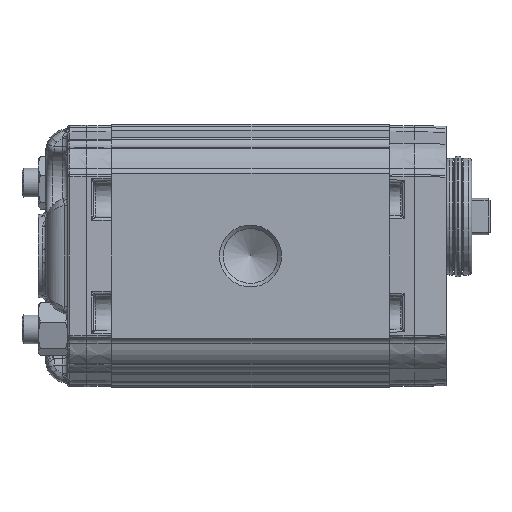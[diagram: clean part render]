
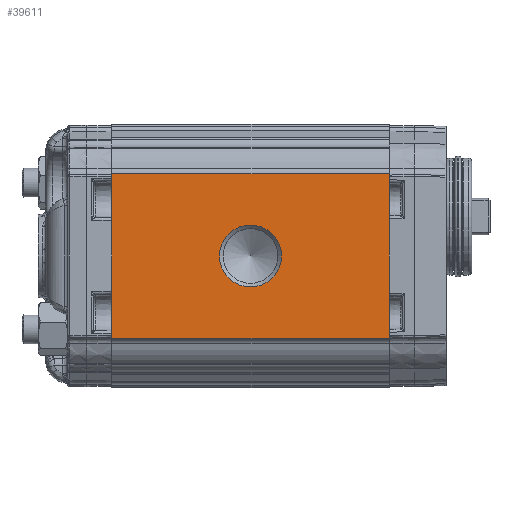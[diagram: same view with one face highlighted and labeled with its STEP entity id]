
A CAD part, left-side view. The second image highlights one B-rep face of the part: STEP entity #39611.
In plain terms, the highlighted planar face has unit normal (-1, 0, 0).
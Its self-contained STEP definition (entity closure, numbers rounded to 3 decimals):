
#3374=LINE('',#76230,#4494);
#3384=LINE('',#76331,#4504);
#3403=LINE('',#76379,#4523);
#3404=LINE('',#76381,#4524);
#4494=VECTOR('',#47897,1000.);
#4504=VECTOR('',#47989,1000.);
#4523=VECTOR('',#48044,1000.);
#4524=VECTOR('',#48047,1000.);
#9420=ORIENTED_EDGE('',*,*,#15362,.F.);
#9421=ORIENTED_EDGE('',*,*,#15460,.T.);
#9422=ORIENTED_EDGE('',*,*,#15432,.T.);
#9423=ORIENTED_EDGE('',*,*,#15461,.T.);
#9424=ORIENTED_EDGE('',*,*,#15382,.F.);
#15362=EDGE_CURVE('',#18653,#18653,#20753,.F.);
#15382=EDGE_CURVE('',#18674,#18675,#3374,.T.);
#15432=EDGE_CURVE('',#18725,#18724,#3384,.T.);
#15460=EDGE_CURVE('',#18674,#18725,#3403,.T.);
#15461=EDGE_CURVE('',#18724,#18675,#3404,.F.);
#18653=VERTEX_POINT('',#76186);
#18674=VERTEX_POINT('',#76229);
#18675=VERTEX_POINT('',#76231);
#18724=VERTEX_POINT('',#76330);
#18725=VERTEX_POINT('',#76332);
#20753=CIRCLE('',#42229,8.475);
#22659=EDGE_LOOP('',(#9420));
#22660=EDGE_LOOP('',(#9421,#9422,#9423,#9424));
#24688=FACE_BOUND('',#22659,.T.);
#24689=FACE_BOUND('',#22660,.T.);
#25817=PLANE('',#42325);
#39611=ADVANCED_FACE('',(#24688,#24689),#25817,.T.);
#42229=AXIS2_PLACEMENT_3D('',#76185,#47854,#47855);
#42325=AXIS2_PLACEMENT_3D('',#76408,#48090,#48091);
#47854=DIRECTION('',(1.,0.,0.));
#47855=DIRECTION('',(0.,0.,-1.));
#47897=DIRECTION('',(0.,0.,1.));
#47989=DIRECTION('',(0.,0.,1.));
#48044=DIRECTION('',(0.,-1.,0.));
#48047=DIRECTION('',(0.,-1.,0.));
#48090=DIRECTION('',(-1.,0.,0.));
#48091=DIRECTION('',(0.,0.,1.));
#76185=CARTESIAN_POINT('',(-33.,38.,0.));
#76186=CARTESIAN_POINT('',(-33.,38.,-8.475));
#76229=CARTESIAN_POINT('',(-33.,76.,-22.5));
#76230=CARTESIAN_POINT('',(-33.,76.,-21.711));
#76231=CARTESIAN_POINT('',(-33.,76.,22.5));
#76330=CARTESIAN_POINT('',(-33.,0.,22.5));
#76331=CARTESIAN_POINT('',(-33.,0.,-21.711));
#76332=CARTESIAN_POINT('',(-33.,0.,-22.5));
#76379=CARTESIAN_POINT('',(-33.,76.,-22.5));
#76381=CARTESIAN_POINT('',(-33.,76.,22.5));
#76408=CARTESIAN_POINT('',(-33.,140.14,48.138));
